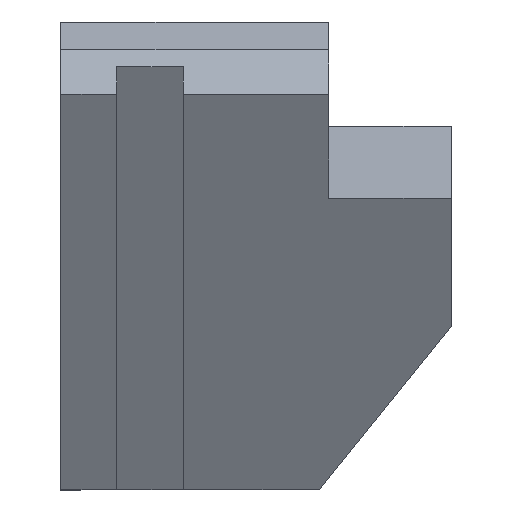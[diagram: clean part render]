
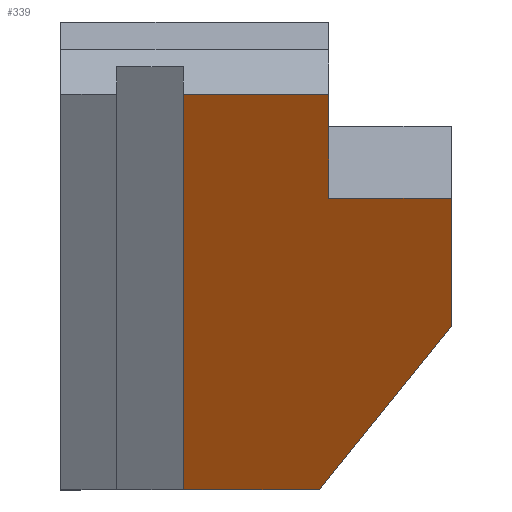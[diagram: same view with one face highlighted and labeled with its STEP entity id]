
A CAD part, top view. The second image highlights one B-rep face of the part: STEP entity #339.
In plain terms, the highlighted planar face has unit normal (0, -0.5, 0.866) as drawn and (0, -1, 0) by its records, which use the part's own axes.
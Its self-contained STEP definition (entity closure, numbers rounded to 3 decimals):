
#67=CARTESIAN_POINT('Axis2P3D Location',(0.,-13.,-22.)) ;
#118=CARTESIAN_POINT('Vertex',(4.619,-13.,26.)) ;
#151=CARTESIAN_POINT('Vertex',(4.619,-13.,0.)) ;
#154=CARTESIAN_POINT('Line Origine',(4.619,-13.,13.)) ;
#199=CARTESIAN_POINT('Line Origine',(86.381,-13.,12.18)) ;
#203=CARTESIAN_POINT('Vertex',(86.381,-13.,24.359)) ;
#205=CARTESIAN_POINT('Vertex',(86.381,-13.,0.)) ;
#299=CARTESIAN_POINT('Line Origine',(26.106,-13.,37.)) ;
#303=CARTESIAN_POINT('Vertex',(26.106,-13.,48.)) ;
#305=CARTESIAN_POINT('Vertex',(26.106,-13.,26.)) ;
#308=CARTESIAN_POINT('Line Origine',(15.362,-13.,26.)) ;
#313=CARTESIAN_POINT('Line Origine',(45.5,-13.,0.)) ;
#318=CARTESIAN_POINT('Line Origine',(69.5,-13.,36.18)) ;
#322=CARTESIAN_POINT('Vertex',(52.619,-13.,48.)) ;
#325=CARTESIAN_POINT('Line Origine',(39.362,-13.,48.)) ;
#68=DIRECTION('Axis2P3D Direction',(0.,1.,0.)) ;
#69=DIRECTION('Axis2P3D XDirection',(0.,0.,1.)) ;
#155=DIRECTION('Vector Direction',(0.,0.,-1.)) ;
#200=DIRECTION('Vector Direction',(0.,0.,-1.)) ;
#300=DIRECTION('Vector Direction',(0.,0.,-1.)) ;
#309=DIRECTION('Vector Direction',(-1.,0.,0.)) ;
#314=DIRECTION('Vector Direction',(1.,0.,0.)) ;
#319=DIRECTION('Vector Direction',(0.819,0.,-0.574)) ;
#326=DIRECTION('Vector Direction',(1.,0.,0.)) ;
#70=AXIS2_PLACEMENT_3D('Plane Axis2P3D',#67,#68,#69) ;
#331=ORIENTED_EDGE('',*,*,#307,.T.) ;
#332=ORIENTED_EDGE('',*,*,#312,.T.) ;
#333=ORIENTED_EDGE('',*,*,#158,.T.) ;
#334=ORIENTED_EDGE('',*,*,#317,.T.) ;
#335=ORIENTED_EDGE('',*,*,#207,.F.) ;
#336=ORIENTED_EDGE('',*,*,#324,.F.) ;
#337=ORIENTED_EDGE('',*,*,#329,.F.) ;
#156=VECTOR('Line Direction',#155,1.) ;
#201=VECTOR('Line Direction',#200,1.) ;
#301=VECTOR('Line Direction',#300,1.) ;
#310=VECTOR('Line Direction',#309,1.) ;
#315=VECTOR('Line Direction',#314,1.) ;
#320=VECTOR('Line Direction',#319,1.) ;
#327=VECTOR('Line Direction',#326,1.) ;
#339=ADVANCED_FACE('',(#338),#71,.F.) ;
#158=EDGE_CURVE('',#119,#152,#157,.T.) ;
#207=EDGE_CURVE('',#204,#206,#202,.T.) ;
#307=EDGE_CURVE('',#304,#306,#302,.T.) ;
#312=EDGE_CURVE('',#306,#119,#311,.T.) ;
#317=EDGE_CURVE('',#152,#206,#316,.T.) ;
#324=EDGE_CURVE('',#323,#204,#321,.T.) ;
#329=EDGE_CURVE('',#304,#323,#328,.T.) ;
#330=EDGE_LOOP('',(#331,#332,#333,#334,#335,#336,#337)) ;
#338=FACE_OUTER_BOUND('',#330,.T.) ;
#157=LINE('Line',#154,#156) ;
#202=LINE('Line',#199,#201) ;
#302=LINE('Line',#299,#301) ;
#311=LINE('Line',#308,#310) ;
#316=LINE('Line',#313,#315) ;
#321=LINE('Line',#318,#320) ;
#328=LINE('Line',#325,#327) ;
#71=PLANE('Plane',#70) ;
#119=VERTEX_POINT('',#118) ;
#152=VERTEX_POINT('',#151) ;
#204=VERTEX_POINT('',#203) ;
#206=VERTEX_POINT('',#205) ;
#304=VERTEX_POINT('',#303) ;
#306=VERTEX_POINT('',#305) ;
#323=VERTEX_POINT('',#322) ;
